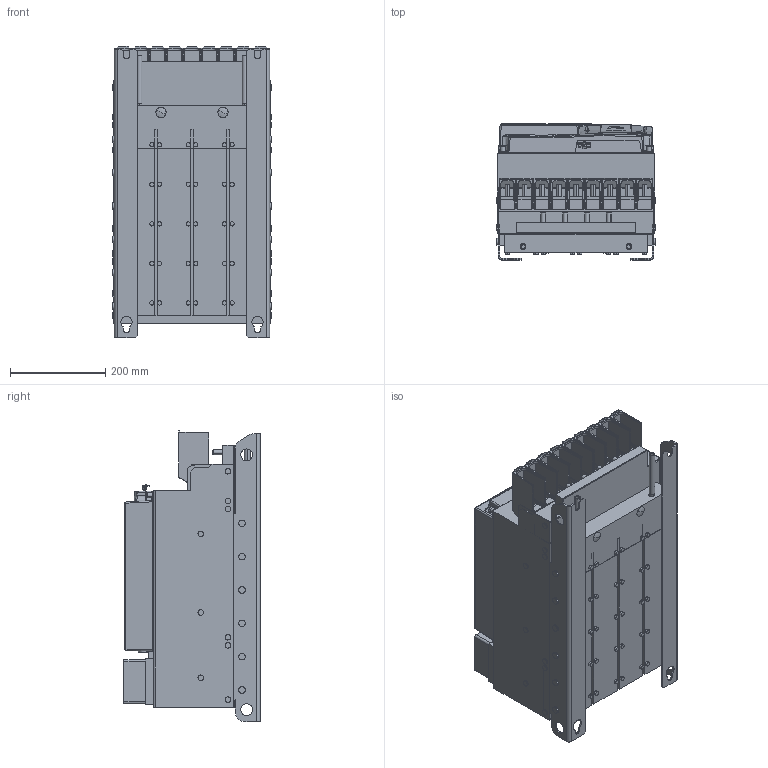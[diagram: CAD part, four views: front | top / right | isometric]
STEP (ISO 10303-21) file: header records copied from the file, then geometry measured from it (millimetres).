
FILE_DESCRIPTION (( 'STEP AP214' ), '1' );
FILE_NAME ('10060972_000.STEP', '2021-02-26T09:01:18', ( '' ), ( '' ), 'SwSTEP 2.0', 'SolidWorks 2019', '' );
FILE_SCHEMA (( 'AUTOMOTIVE_DESIGN' ));
Length unit declared in the file: millimetre
Products named in the file (13): 10035736_000_Kundenmodell; 10043622_000_70F6 Klemme (Kundenmodell); 10061503_000; 10061504_000_Gehеsebaugruppe ohne L’terkarte; 10060972_000; 10061502_000_Deckel (Kundenmodell); 10060724_000_ Leistungsteil + BW F6-7 TW0 (Kundenmodell); 10061630_000; 10045475_000_Geh„usebaugruppe F6-7 (Kundenmodell); 10059764_000_Blindabdeckung (Kundenmodell); 10059763_000; 10061522_000; 10059765_000
Assembly tree (12 placements, depth 4):
  10060972_000
    10060724_000_ Leistungsteil + BW F6-7 TW0 (Kundenmodell)
      10043622_000_70F6 Klemme (Kundenmodell)
        10061522_000
      10061630_000
    10045475_000_Geh„usebaugruppe F6-7 (Kundenmodell)
      10061502_000_Deckel (Kundenmodell)
        10061503_000
      10061504_000_Gehеsebaugruppe ohne L’terkarte
    10035736_000_Kundenmodell
      10059764_000_Blindabdeckung (Kundenmodell)
        10059765_000
      10059763_000
Bounding box: 335.4 x 285.9 x 611.76 mm (x, y, z)
Volume: 42357902.5 mm3; surface area: 2195420.6 mm2
Topology: 12 solids, 12 shells, 3379 faces, 8560 edges, 5261 vertices
Faces by surface type: plane 1719, cylinder 1033, bspline 286, sphere 176, torus 97, cone 68
Entity records: 108500 total; most frequent: CARTESIAN_POINT 28860, ORIENTED_EDGE 16898, DIRECTION 15732, EDGE_CURVE 8449, LINE 5388, VECTOR 5388, VERTEX_POINT 5258, AXIS2_PLACEMENT_3D 5172
